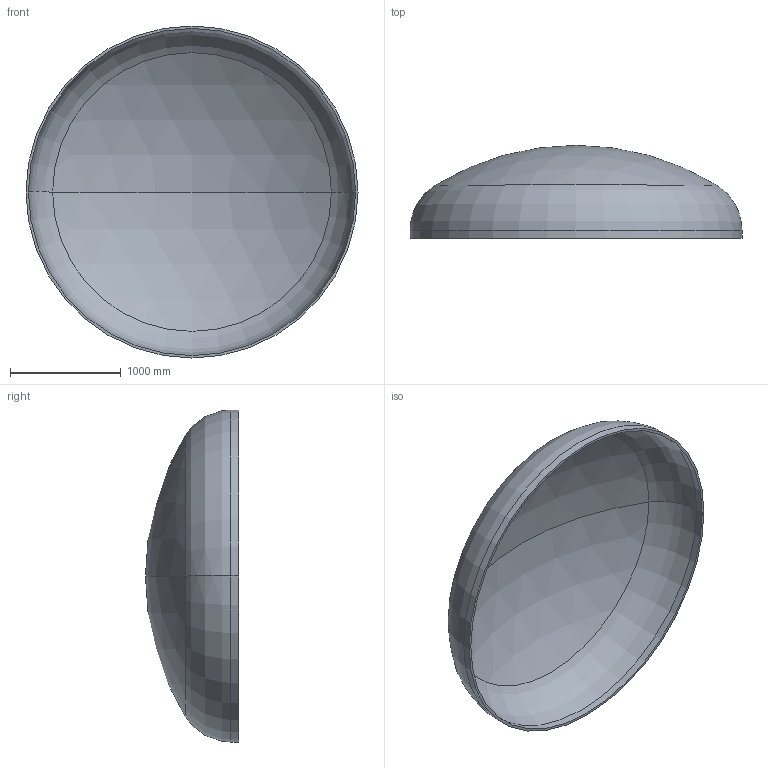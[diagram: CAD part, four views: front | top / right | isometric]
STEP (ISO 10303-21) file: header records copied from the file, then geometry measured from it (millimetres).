
FILE_DESCRIPTION (( 'STEP AP203' ), '1' );
FILE_NAME ('DIN 28013 Korbbogenform_-_Boden DIN 28013 - 3000 x 70 - I - s=22.step', '2016-07-01T17:35:22', ( '' ), ( '' ), 'SwSTEP 2.0', 'SolidWorks 2013', '' );
FILE_SCHEMA (( 'CONFIG_CONTROL_DESIGN' ));
Length unit declared in the file: millimetre
Products named in the file (1): DIN 28013 Korbbogenform_-_Boden DIN 28013 - 3000 x 70 - I - s=22
Bounding box: 3000 x 840.55 x 3000 mm (x, y, z)
Volume: 227528644.2 mm3; surface area: 20891252.5 mm2
Topology: 1 solids, 1 shells, 13 faces, 24 edges, 14 vertices
Faces by surface type: torus 4, cylinder 4, sphere 4, plane 1
Entity records: 407 total; most frequent: DIRECTION 72, CARTESIAN_POINT 52, ORIENTED_EDGE 48, AXIS2_PLACEMENT_3D 34, EDGE_CURVE 24, CIRCLE 20, VERTEX_POINT 14, EDGE_LOOP 14
